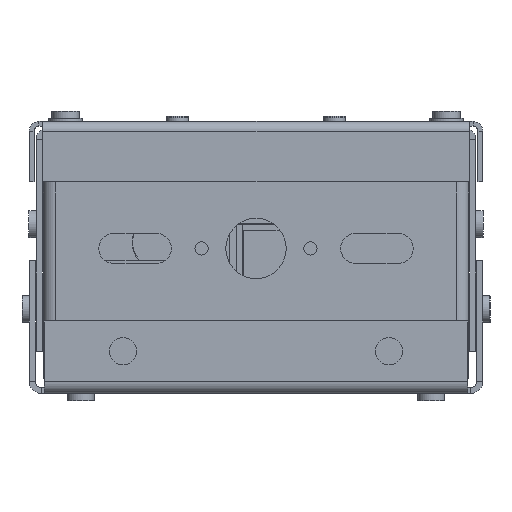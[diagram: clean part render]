
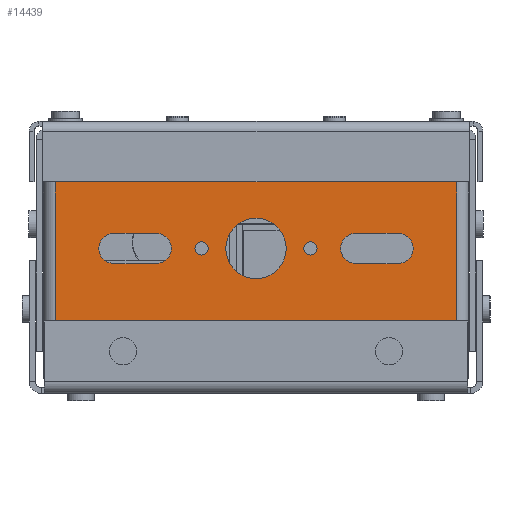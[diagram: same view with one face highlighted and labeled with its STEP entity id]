
A CAD part, left-side view. The second image highlights one B-rep face of the part: STEP entity #14439.
In plain terms, the highlighted planar face has unit normal (-1, 0, 0).
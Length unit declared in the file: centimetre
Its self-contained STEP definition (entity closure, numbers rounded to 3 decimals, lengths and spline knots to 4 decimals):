
#1067=FACE_BOUND('',#2989,.T.);
#1068=FACE_BOUND('',#2990,.T.);
#1069=FACE_BOUND('',#2991,.T.);
#1070=FACE_BOUND('',#2992,.T.);
#1071=FACE_BOUND('',#2993,.T.);
#1072=FACE_BOUND('',#2994,.T.);
#1073=FACE_BOUND('',#2995,.T.);
#1445=PLANE('',#15916);
#2052=FACE_OUTER_BOUND('',#2988,.T.);
#2988=EDGE_LOOP('',(#11221,#11222,#11223,#11224,#11225,#11226,#11227,#11228));
#2989=EDGE_LOOP('',(#11229,#11230,#11231,#11232));
#2990=EDGE_LOOP('',(#11233));
#2991=EDGE_LOOP('',(#11234));
#2992=EDGE_LOOP('',(#11235));
#2993=EDGE_LOOP('',(#11236));
#2994=EDGE_LOOP('',(#11237));
#2995=EDGE_LOOP('',(#11238,#11239,#11240,#11241));
#4119=LINE('',#22646,#5418);
#4124=LINE('',#22660,#5423);
#4132=LINE('',#22700,#5431);
#4137=LINE('',#22714,#5436);
#4141=LINE('',#22728,#5440);
#4156=LINE('',#22764,#5455);
#4160=LINE('',#22775,#5459);
#4176=LINE('',#22816,#5475);
#4191=LINE('',#22852,#5490);
#4194=LINE('',#22857,#5493);
#4195=LINE('',#22858,#5494);
#4196=LINE('',#22859,#5495);
#5418=VECTOR('',#18135,1.);
#5423=VECTOR('',#18148,1.);
#5431=VECTOR('',#18194,1.);
#5436=VECTOR('',#18207,1.);
#5440=VECTOR('',#18221,1.);
#5455=VECTOR('',#18260,1.);
#5459=VECTOR('',#18268,1.);
#5475=VECTOR('',#18310,1.);
#5490=VECTOR('',#18349,1.);
#5493=VECTOR('',#18354,1.);
#5494=VECTOR('',#18355,1.);
#5495=VECTOR('',#18356,1.);
#6616=CIRCLE('',#15846,0.25);
#6618=CIRCLE('',#15850,0.25);
#6620=CIRCLE('',#15853,0.135);
#6622=CIRCLE('',#15856,0.5);
#6624=CIRCLE('',#15859,0.135);
#6626=CIRCLE('',#15862,0.11);
#6628=CIRCLE('',#15865,0.11);
#6630=CIRCLE('',#15869,0.25);
#6632=CIRCLE('',#15873,0.25);
#7328=VERTEX_POINT('',#22644);
#7329=VERTEX_POINT('',#22645);
#7332=VERTEX_POINT('',#22653);
#7334=VERTEX_POINT('',#22659);
#7336=VERTEX_POINT('',#22668);
#7338=VERTEX_POINT('',#22674);
#7340=VERTEX_POINT('',#22680);
#7342=VERTEX_POINT('',#22686);
#7344=VERTEX_POINT('',#22692);
#7346=VERTEX_POINT('',#22698);
#7347=VERTEX_POINT('',#22699);
#7350=VERTEX_POINT('',#22707);
#7352=VERTEX_POINT('',#22713);
#7356=VERTEX_POINT('',#22725);
#7357=VERTEX_POINT('',#22727);
#7366=VERTEX_POINT('',#22763);
#7370=VERTEX_POINT('',#22772);
#7371=VERTEX_POINT('',#22774);
#7382=VERTEX_POINT('',#22813);
#7383=VERTEX_POINT('',#22815);
#7392=VERTEX_POINT('',#22851);
#8689=EDGE_CURVE('',#7328,#7329,#4119,.T.);
#8693=EDGE_CURVE('',#7329,#7332,#6616,.T.);
#8696=EDGE_CURVE('',#7332,#7334,#4124,.T.);
#8699=EDGE_CURVE('',#7334,#7328,#6618,.T.);
#8701=EDGE_CURVE('',#7336,#7336,#6620,.T.);
#8704=EDGE_CURVE('',#7338,#7338,#6622,.T.);
#8707=EDGE_CURVE('',#7340,#7340,#6624,.T.);
#8710=EDGE_CURVE('',#7342,#7342,#6626,.T.);
#8713=EDGE_CURVE('',#7344,#7344,#6628,.T.);
#8716=EDGE_CURVE('',#7346,#7347,#4132,.T.);
#8720=EDGE_CURVE('',#7347,#7350,#6630,.T.);
#8723=EDGE_CURVE('',#7350,#7352,#4137,.T.);
#8726=EDGE_CURVE('',#7352,#7346,#6632,.T.);
#8730=EDGE_CURVE('',#7357,#7356,#4141,.T.);
#8748=EDGE_CURVE('',#7357,#7366,#4156,.T.);
#8753=EDGE_CURVE('',#7371,#7370,#4160,.T.);
#8773=EDGE_CURVE('',#7383,#7382,#4176,.T.);
#8791=EDGE_CURVE('',#7371,#7392,#4191,.T.);
#8794=EDGE_CURVE('',#7392,#7356,#4194,.T.);
#8795=EDGE_CURVE('',#7383,#7370,#4195,.T.);
#8796=EDGE_CURVE('',#7366,#7382,#4196,.T.);
#11221=ORIENTED_EDGE('',*,*,#8730,.T.);
#11222=ORIENTED_EDGE('',*,*,#8794,.F.);
#11223=ORIENTED_EDGE('',*,*,#8791,.F.);
#11224=ORIENTED_EDGE('',*,*,#8753,.T.);
#11225=ORIENTED_EDGE('',*,*,#8795,.F.);
#11226=ORIENTED_EDGE('',*,*,#8773,.T.);
#11227=ORIENTED_EDGE('',*,*,#8796,.F.);
#11228=ORIENTED_EDGE('',*,*,#8748,.F.);
#11229=ORIENTED_EDGE('',*,*,#8723,.T.);
#11230=ORIENTED_EDGE('',*,*,#8726,.T.);
#11231=ORIENTED_EDGE('',*,*,#8716,.T.);
#11232=ORIENTED_EDGE('',*,*,#8720,.T.);
#11233=ORIENTED_EDGE('',*,*,#8713,.T.);
#11234=ORIENTED_EDGE('',*,*,#8710,.T.);
#11235=ORIENTED_EDGE('',*,*,#8707,.T.);
#11236=ORIENTED_EDGE('',*,*,#8704,.T.);
#11237=ORIENTED_EDGE('',*,*,#8701,.T.);
#11238=ORIENTED_EDGE('',*,*,#8696,.T.);
#11239=ORIENTED_EDGE('',*,*,#8699,.T.);
#11240=ORIENTED_EDGE('',*,*,#8689,.T.);
#11241=ORIENTED_EDGE('',*,*,#8693,.T.);
#14439=ADVANCED_FACE('',(#2052,#1067,#1068,#1069,#1070,#1071,#1072,#1073),
#1445,.F.);
#15846=AXIS2_PLACEMENT_3D('',#22654,#18141,#18142);
#15850=AXIS2_PLACEMENT_3D('',#22665,#18153,#18154);
#15853=AXIS2_PLACEMENT_3D('',#22669,#18159,#18160);
#15856=AXIS2_PLACEMENT_3D('',#22675,#18166,#18167);
#15859=AXIS2_PLACEMENT_3D('',#22681,#18173,#18174);
#15862=AXIS2_PLACEMENT_3D('',#22687,#18180,#18181);
#15865=AXIS2_PLACEMENT_3D('',#22693,#18187,#18188);
#15869=AXIS2_PLACEMENT_3D('',#22708,#18200,#18201);
#15873=AXIS2_PLACEMENT_3D('',#22719,#18212,#18213);
#15916=AXIS2_PLACEMENT_3D('',#22856,#18352,#18353);
#18135=DIRECTION('',(0.,-1.,0.));
#18141=DIRECTION('center_axis',(1.,0.,0.));
#18142=DIRECTION('ref_axis',(0.,0.,1.));
#18148=DIRECTION('',(0.,1.,0.));
#18153=DIRECTION('center_axis',(1.,0.,0.));
#18154=DIRECTION('ref_axis',(0.,0.,-1.));
#18159=DIRECTION('center_axis',(1.,0.,0.));
#18160=DIRECTION('ref_axis',(0.,0.,-1.));
#18166=DIRECTION('center_axis',(1.,0.,0.));
#18167=DIRECTION('ref_axis',(0.,0.,-1.));
#18173=DIRECTION('center_axis',(1.,0.,0.));
#18174=DIRECTION('ref_axis',(0.,0.,-1.));
#18180=DIRECTION('center_axis',(1.,0.,0.));
#18181=DIRECTION('ref_axis',(0.,0.,-1.));
#18187=DIRECTION('center_axis',(1.,0.,0.));
#18188=DIRECTION('ref_axis',(0.,0.,-1.));
#18194=DIRECTION('',(0.,-1.,0.));
#18200=DIRECTION('center_axis',(1.,0.,0.));
#18201=DIRECTION('ref_axis',(0.,0.,1.));
#18207=DIRECTION('',(0.,1.,0.));
#18212=DIRECTION('center_axis',(1.,0.,0.));
#18213=DIRECTION('ref_axis',(0.,0.,-1.));
#18221=DIRECTION('',(0.,1.,0.));
#18260=DIRECTION('',(0.,0.,-1.));
#18268=DIRECTION('',(0.,0.,-1.));
#18310=DIRECTION('',(0.,0.,1.));
#18349=DIRECTION('',(0.,-1.,0.));
#18352=DIRECTION('center_axis',(1.,0.,0.));
#18353=DIRECTION('ref_axis',(0.,0.,-1.));
#18354=DIRECTION('',(0.,0.,1.));
#18355=DIRECTION('',(0.,1.,0.));
#18356=DIRECTION('',(0.,-1.,0.));
#22644=CARTESIAN_POINT('',(0.115,-1.65,2.65));
#22645=CARTESIAN_POINT('',(0.115,-2.35,2.65));
#22646=CARTESIAN_POINT('',(0.115,-0.825,2.65));
#22653=CARTESIAN_POINT('',(0.115,-2.35,2.15));
#22654=CARTESIAN_POINT('Origin',(0.115,-2.35,2.4));
#22659=CARTESIAN_POINT('',(0.115,-1.65,2.15));
#22660=CARTESIAN_POINT('',(0.115,-1.175,2.15));
#22665=CARTESIAN_POINT('Origin',(0.115,-1.65,2.4));
#22668=CARTESIAN_POINT('',(0.115,-2.2,0.835));
#22669=CARTESIAN_POINT('Origin',(0.115,-2.2,0.7));
#22674=CARTESIAN_POINT('',(0.115,0.,2.9));
#22675=CARTESIAN_POINT('Origin',(0.115,0.,2.4));
#22680=CARTESIAN_POINT('',(0.115,2.2,0.835));
#22681=CARTESIAN_POINT('Origin',(0.115,2.2,0.7));
#22686=CARTESIAN_POINT('',(0.115,-0.9,2.51));
#22687=CARTESIAN_POINT('Origin',(0.115,-0.9,2.4));
#22692=CARTESIAN_POINT('',(0.115,0.9,2.51));
#22693=CARTESIAN_POINT('Origin',(0.115,0.9,2.4));
#22698=CARTESIAN_POINT('',(0.115,2.35,2.65));
#22699=CARTESIAN_POINT('',(0.115,1.65,2.65));
#22700=CARTESIAN_POINT('',(0.115,1.175,2.65));
#22707=CARTESIAN_POINT('',(0.115,1.65,2.15));
#22708=CARTESIAN_POINT('Origin',(0.115,1.65,2.4));
#22713=CARTESIAN_POINT('',(0.115,2.35,2.15));
#22714=CARTESIAN_POINT('',(0.115,0.825,2.15));
#22719=CARTESIAN_POINT('Origin',(0.115,2.35,2.4));
#22725=CARTESIAN_POINT('',(0.115,3.22,4.08));
#22727=CARTESIAN_POINT('',(0.115,-3.22,4.08));
#22728=CARTESIAN_POINT('',(0.115,1.61,4.08));
#22763=CARTESIAN_POINT('',(0.115,-3.22,3.98));
#22764=CARTESIAN_POINT('',(0.115,-3.22,4.28));
#22772=CARTESIAN_POINT('',(0.115,3.32,0.25));
#22774=CARTESIAN_POINT('',(0.115,3.32,3.98));
#22775=CARTESIAN_POINT('',(0.115,3.32,1.2575));
#22813=CARTESIAN_POINT('',(0.115,-3.32,3.98));
#22815=CARTESIAN_POINT('',(0.115,-3.32,0.25));
#22816=CARTESIAN_POINT('',(0.115,-3.32,3.1225));
#22851=CARTESIAN_POINT('',(0.115,3.22,3.98));
#22852=CARTESIAN_POINT('',(0.115,3.52,3.98));
#22856=CARTESIAN_POINT('Origin',(0.115,0.,2.265));
#22857=CARTESIAN_POINT('',(0.115,3.22,3.98));
#22858=CARTESIAN_POINT('',(0.115,-3.52,0.25));
#22859=CARTESIAN_POINT('',(0.115,-3.22,3.98));
